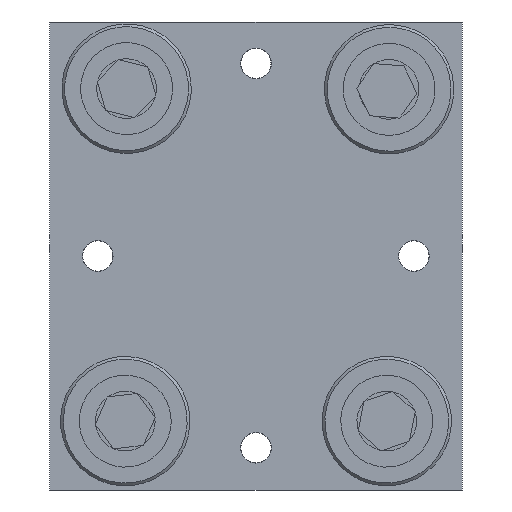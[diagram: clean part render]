
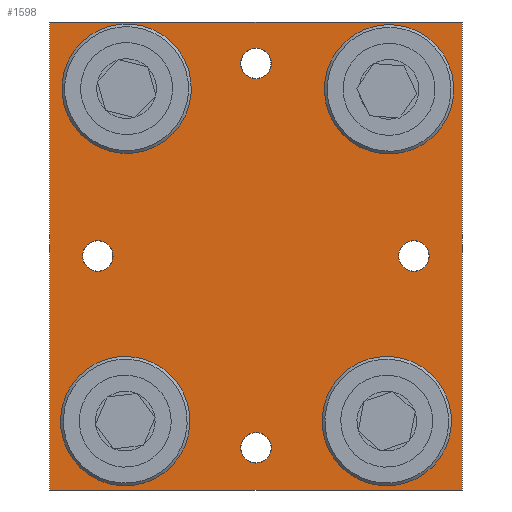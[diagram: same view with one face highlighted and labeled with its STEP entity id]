
A CAD part, front view. The second image highlights one B-rep face of the part: STEP entity #1598.
In plain terms, the highlighted planar face has unit normal (0, -1, 0).
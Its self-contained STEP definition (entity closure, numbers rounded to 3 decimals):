
#166=CIRCLE('',#1893,5.55);
#167=CIRCLE('',#1894,5.55);
#168=CIRCLE('',#1895,5.55);
#169=CIRCLE('',#1896,5.55);
#170=CIRCLE('',#1897,5.55);
#171=CIRCLE('',#1898,5.55);
#172=CIRCLE('',#1899,5.55);
#173=CIRCLE('',#1900,5.55);
#294=ORIENTED_EDGE('',*,*,#654,.T.);
#295=ORIENTED_EDGE('',*,*,#655,.T.);
#296=ORIENTED_EDGE('',*,*,#656,.T.);
#297=ORIENTED_EDGE('',*,*,#657,.T.);
#298=ORIENTED_EDGE('',*,*,#658,.T.);
#299=ORIENTED_EDGE('',*,*,#659,.T.);
#300=ORIENTED_EDGE('',*,*,#660,.T.);
#301=ORIENTED_EDGE('',*,*,#661,.T.);
#302=ORIENTED_EDGE('',*,*,#644,.T.);
#303=ORIENTED_EDGE('',*,*,#648,.T.);
#304=ORIENTED_EDGE('',*,*,#651,.T.);
#305=ORIENTED_EDGE('',*,*,#653,.T.);
#644=EDGE_CURVE('',#827,#826,#990,.T.);
#648=EDGE_CURVE('',#826,#829,#994,.T.);
#651=EDGE_CURVE('',#829,#831,#997,.T.);
#653=EDGE_CURVE('',#831,#827,#999,.T.);
#654=EDGE_CURVE('',#832,#832,#166,.F.);
#655=EDGE_CURVE('',#833,#833,#167,.F.);
#656=EDGE_CURVE('',#834,#834,#168,.F.);
#657=EDGE_CURVE('',#835,#835,#169,.F.);
#658=EDGE_CURVE('',#836,#836,#170,.F.);
#659=EDGE_CURVE('',#837,#837,#171,.F.);
#660=EDGE_CURVE('',#838,#838,#172,.F.);
#661=EDGE_CURVE('',#839,#839,#173,.F.);
#826=VERTEX_POINT('',#2689);
#827=VERTEX_POINT('',#2691);
#829=VERTEX_POINT('',#2697);
#831=VERTEX_POINT('',#2703);
#832=VERTEX_POINT('',#2710);
#833=VERTEX_POINT('',#2712);
#834=VERTEX_POINT('',#2714);
#835=VERTEX_POINT('',#2716);
#836=VERTEX_POINT('',#2718);
#837=VERTEX_POINT('',#2720);
#838=VERTEX_POINT('',#2722);
#839=VERTEX_POINT('',#2724);
#990=LINE('',#2690,#1036);
#994=LINE('',#2698,#1040);
#997=LINE('',#2704,#1043);
#999=LINE('',#2707,#1045);
#1036=VECTOR('',#2143,1000.);
#1040=VECTOR('',#2149,1000.);
#1043=VECTOR('',#2154,1000.);
#1045=VECTOR('',#2158,1000.);
#1084=EDGE_LOOP('',(#294));
#1085=EDGE_LOOP('',(#295));
#1086=EDGE_LOOP('',(#296));
#1087=EDGE_LOOP('',(#297));
#1088=EDGE_LOOP('',(#298));
#1089=EDGE_LOOP('',(#299));
#1090=EDGE_LOOP('',(#300));
#1091=EDGE_LOOP('',(#301));
#1092=EDGE_LOOP('',(#302,#303,#304,#305));
#1310=FACE_BOUND('',#1084,.T.);
#1311=FACE_BOUND('',#1085,.T.);
#1312=FACE_BOUND('',#1086,.T.);
#1313=FACE_BOUND('',#1087,.T.);
#1314=FACE_BOUND('',#1088,.T.);
#1315=FACE_BOUND('',#1089,.T.);
#1316=FACE_BOUND('',#1090,.T.);
#1317=FACE_BOUND('',#1091,.T.);
#1318=FACE_BOUND('',#1092,.T.);
#1544=PLANE('',#1892);
#1598=ADVANCED_FACE('',(#1310,#1311,#1312,#1313,#1314,#1315,#1316,#1317,
#1318),#1544,.T.);
#1892=AXIS2_PLACEMENT_3D('',#2708,#2159,#2160);
#1893=AXIS2_PLACEMENT_3D('',#2709,#2161,#2162);
#1894=AXIS2_PLACEMENT_3D('',#2711,#2163,#2164);
#1895=AXIS2_PLACEMENT_3D('',#2713,#2165,#2166);
#1896=AXIS2_PLACEMENT_3D('',#2715,#2167,#2168);
#1897=AXIS2_PLACEMENT_3D('',#2717,#2169,#2170);
#1898=AXIS2_PLACEMENT_3D('',#2719,#2171,#2172);
#1899=AXIS2_PLACEMENT_3D('',#2721,#2173,#2174);
#1900=AXIS2_PLACEMENT_3D('',#2723,#2175,#2176);
#2143=DIRECTION('',(1.,0.,0.));
#2149=DIRECTION('',(0.,0.,1.));
#2154=DIRECTION('',(-1.,0.,0.));
#2158=DIRECTION('',(0.,0.,-1.));
#2159=DIRECTION('',(0.,-1.,0.));
#2160=DIRECTION('',(0.,0.,-1.));
#2161=DIRECTION('',(0.,-1.,0.));
#2162=DIRECTION('',(0.,0.,-1.));
#2163=DIRECTION('',(0.,-1.,0.));
#2164=DIRECTION('',(0.,0.,-1.));
#2165=DIRECTION('',(0.,-1.,0.));
#2166=DIRECTION('',(0.,0.,-1.));
#2167=DIRECTION('',(0.,-1.,0.));
#2168=DIRECTION('',(0.,0.,-1.));
#2169=DIRECTION('',(0.,-1.,0.));
#2170=DIRECTION('',(0.,0.,-1.));
#2171=DIRECTION('',(0.,-1.,0.));
#2172=DIRECTION('',(0.,0.,-1.));
#2173=DIRECTION('',(0.,-1.,0.));
#2174=DIRECTION('',(0.,0.,-1.));
#2175=DIRECTION('',(0.,-1.,0.));
#2176=DIRECTION('',(0.,0.,-1.));
#2689=CARTESIAN_POINT('',(75.,-12.25,-85.));
#2690=CARTESIAN_POINT('',(-75.,-12.25,-85.));
#2691=CARTESIAN_POINT('',(-75.,-12.25,-85.));
#2697=CARTESIAN_POINT('',(75.,-12.25,85.));
#2698=CARTESIAN_POINT('',(75.,-12.25,-85.));
#2703=CARTESIAN_POINT('',(-75.,-12.25,85.));
#2704=CARTESIAN_POINT('',(75.,-12.25,85.));
#2707=CARTESIAN_POINT('',(-75.,-12.25,85.));
#2708=CARTESIAN_POINT('',(0.,-12.25,0.));
#2709=CARTESIAN_POINT('',(-47.5,-12.25,-60.));
#2710=CARTESIAN_POINT('',(-47.5,-12.25,-65.55));
#2711=CARTESIAN_POINT('',(0.,-12.25,-69.657));
#2712=CARTESIAN_POINT('',(0.,-12.25,-75.207));
#2713=CARTESIAN_POINT('',(47.5,-12.25,-60.));
#2714=CARTESIAN_POINT('',(47.5,-12.25,-65.55));
#2715=CARTESIAN_POINT('',(-57.471,-12.25,0.));
#2716=CARTESIAN_POINT('',(-57.471,-12.25,-5.55));
#2717=CARTESIAN_POINT('',(57.356,-12.25,0.));
#2718=CARTESIAN_POINT('',(57.356,-12.25,-5.55));
#2719=CARTESIAN_POINT('',(47.5,-12.25,60.));
#2720=CARTESIAN_POINT('',(47.5,-12.25,54.45));
#2721=CARTESIAN_POINT('',(-47.249,-12.25,59.822));
#2722=CARTESIAN_POINT('',(-47.249,-12.25,54.272));
#2723=CARTESIAN_POINT('',(-0.015,-12.25,69.951));
#2724=CARTESIAN_POINT('',(-0.015,-12.25,64.401));
